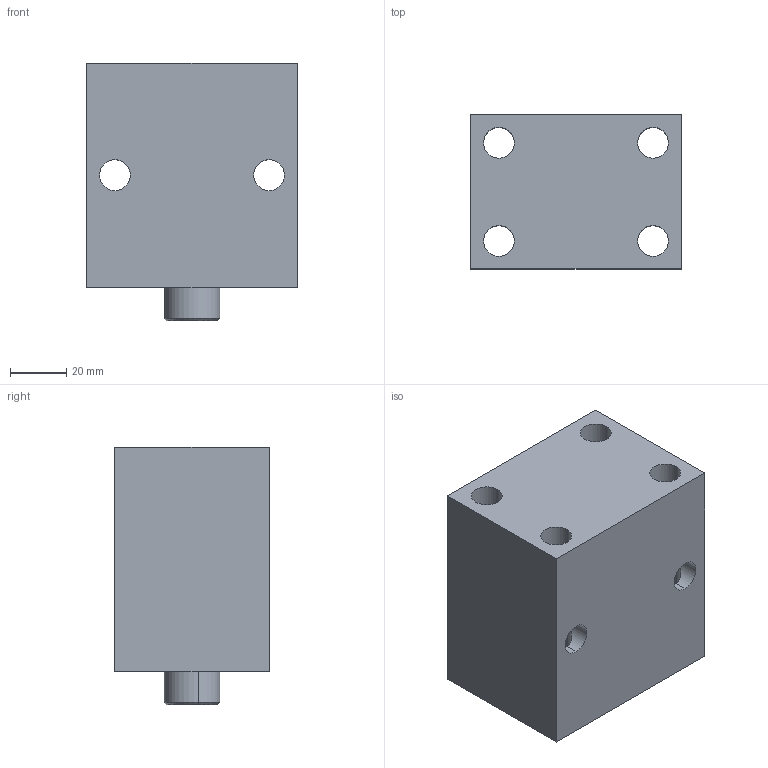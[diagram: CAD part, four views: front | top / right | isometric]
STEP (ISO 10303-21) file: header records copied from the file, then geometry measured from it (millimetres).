
FILE_DESCRIPTION (( 'STEP AP203' ), '1' );
FILE_NAME ('Block cylinder_B01C-225F.STEP', '2022-07-09T18:27:27', ( '' ), ( '' ), 'SwSTEP 2.0', 'SolidWorks 2017', '' );
FILE_SCHEMA (( 'CONFIG_CONTROL_DESIGN' ));
Length unit declared in the file: millimetre
Products named in the file (3): Body_225F_50ST; Piston_225F_50sT; Block cylinder_B01C-225F
Assembly tree (2 placements, depth 2):
  Block cylinder_B01C-225F
    Body_225F_50ST
    Piston_225F_50sT
Bounding box: 75 x 55 x 92 mm (x, y, z)
Volume: 290734.5 mm3; surface area: 51416.1 mm2
Topology: 2 solids, 2 shells, 340 faces, 931 edges, 607 vertices
Faces by surface type: bspline 148, plane 140, cylinder 44, cone 8
Entity records: 17132 total; most frequent: CARTESIAN_POINT 9281, ORIENTED_EDGE 1850, DIRECTION 1049, EDGE_CURVE 925, VERTEX_POINT 607, VECTOR 539, LINE 539, EDGE_LOOP 378
